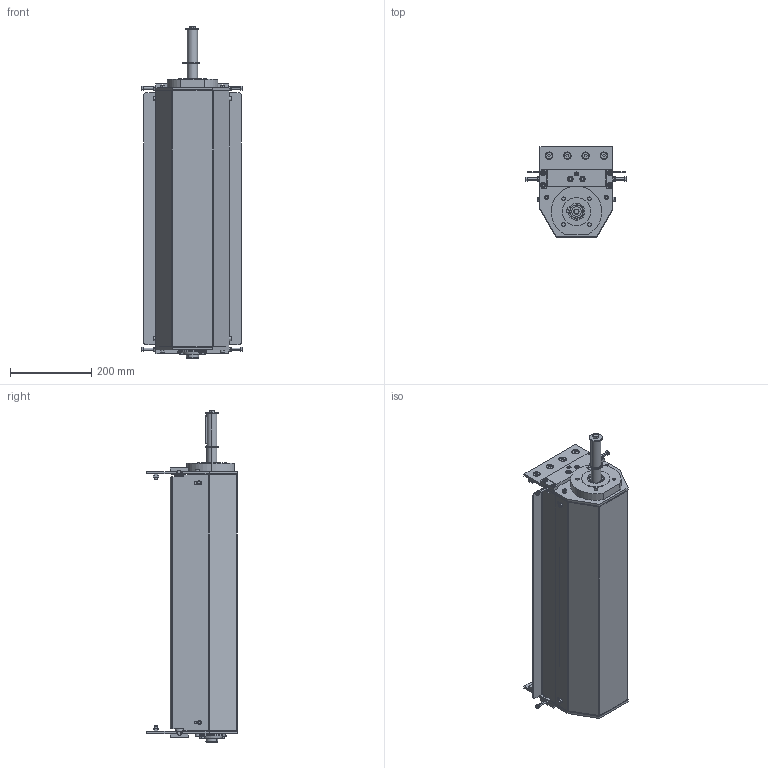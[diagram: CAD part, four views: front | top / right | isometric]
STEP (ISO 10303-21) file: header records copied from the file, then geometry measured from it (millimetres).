
FILE_DESCRIPTION (( 'STEP AP203' ), '1' );
FILE_NAME ('084.095.KCS.49.600.STEP', '2016-11-08T08:14:12', ( 'Utente' ), ( '' ), 'SwSTEP 2.0', 'SolidWorks 2016', '' );
FILE_SCHEMA (( 'CONFIG_CONTROL_DESIGN' ));
Length unit declared in the file: millimetre
Products named in the file (1): 084.095.KCS.49.600
Bounding box: 248 x 223 x 818.83 mm (x, y, z)
Surface area: 1383571.2 mm2 (no closed solid volume)
Topology: 0 solids, 106 shells, 943 faces, 2887 edges, 2043 vertices
Faces by surface type: plane 526, cylinder 229, cone 158, torus 26, sphere 4
Entity records: 32594 total; most frequent: CARTESIAN_POINT 6522, DIRECTION 5588, ORIENTED_EDGE 4664, EDGE_CURVE 2883, VERTEX_POINT 2041, AXIS2_PLACEMENT_3D 1919, VECTOR 1750, LINE 1750
